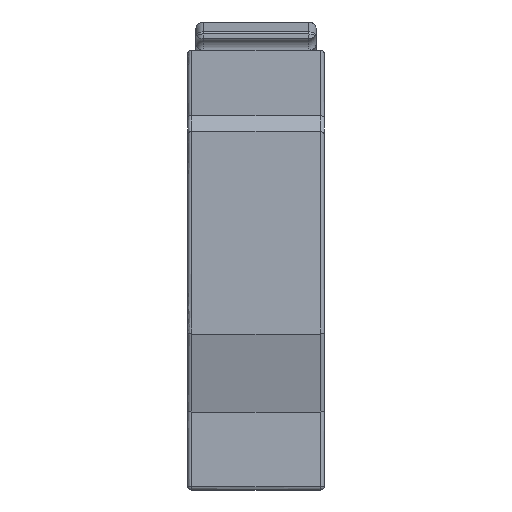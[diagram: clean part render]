
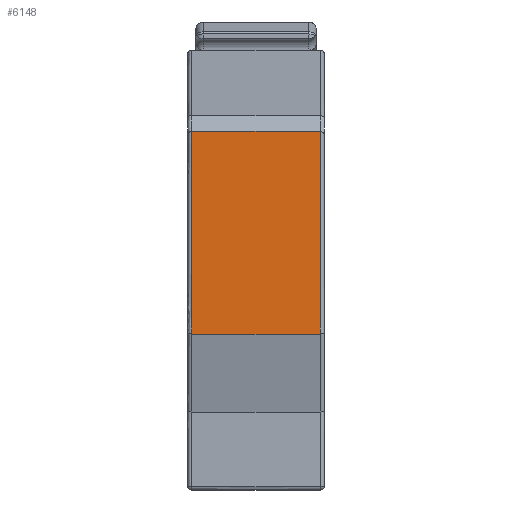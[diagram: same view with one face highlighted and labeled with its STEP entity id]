
A CAD part, front view. The second image highlights one B-rep face of the part: STEP entity #6148.
In plain terms, the highlighted planar face has unit normal (0, -1, 0).
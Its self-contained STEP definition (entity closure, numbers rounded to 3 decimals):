
#101=PLANE('',#6570);
#650=FACE_OUTER_BOUND('',#1029,.T.);
#1029=EDGE_LOOP('',(#4360,#4361,#4362,#4363));
#1548=LINE('',#8231,#2138);
#1601=LINE('',#8478,#2191);
#1603=LINE('',#8482,#2193);
#1604=LINE('',#8483,#2194);
#2138=VECTOR('',#6895,10.);
#2191=VECTOR('',#7070,10.);
#2193=VECTOR('',#7074,10.);
#2194=VECTOR('',#7075,10.);
#2728=VERTEX_POINT('',#8223);
#2730=VERTEX_POINT('',#8229);
#2786=VERTEX_POINT('',#8477);
#2787=VERTEX_POINT('',#8481);
#3322=EDGE_CURVE('',#2730,#2728,#1548,.T.);
#3409=EDGE_CURVE('',#2786,#2728,#1601,.T.);
#3411=EDGE_CURVE('',#2787,#2730,#1603,.T.);
#3412=EDGE_CURVE('',#2786,#2787,#1604,.T.);
#4360=ORIENTED_EDGE('',*,*,#3322,.F.);
#4361=ORIENTED_EDGE('',*,*,#3411,.F.);
#4362=ORIENTED_EDGE('',*,*,#3412,.F.);
#4363=ORIENTED_EDGE('',*,*,#3409,.T.);
#6148=ADVANCED_FACE('',(#650),#101,.T.);
#6570=AXIS2_PLACEMENT_3D('',#8480,#7072,#7073);
#6895=DIRECTION('',(0.,0.,-1.));
#7070=DIRECTION('',(1.,0.,0.));
#7072=DIRECTION('center_axis',(0.,-1.,0.));
#7073=DIRECTION('ref_axis',(0.,0.,-1.));
#7074=DIRECTION('',(1.,0.,0.));
#7075=DIRECTION('',(0.,0.,1.));
#8223=CARTESIAN_POINT('',(17.,-34.91,-9.092));
#8229=CARTESIAN_POINT('',(17.,-34.91,16.885));
#8231=CARTESIAN_POINT('',(17.,-34.91,7.116));
#8477=CARTESIAN_POINT('',(0.5,-34.91,-9.092));
#8478=CARTESIAN_POINT('',(0.,-34.91,-9.092));
#8480=CARTESIAN_POINT('Origin',(0.,-34.91,16.885));
#8481=CARTESIAN_POINT('',(0.5,-34.91,16.885));
#8482=CARTESIAN_POINT('',(0.,-34.91,16.885));
#8483=CARTESIAN_POINT('',(0.5,-34.91,7.116));
